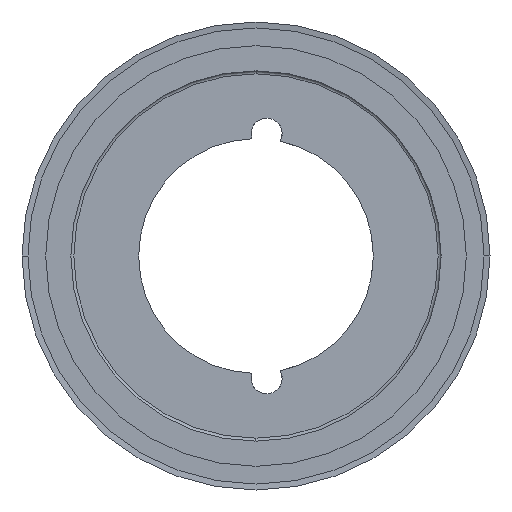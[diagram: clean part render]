
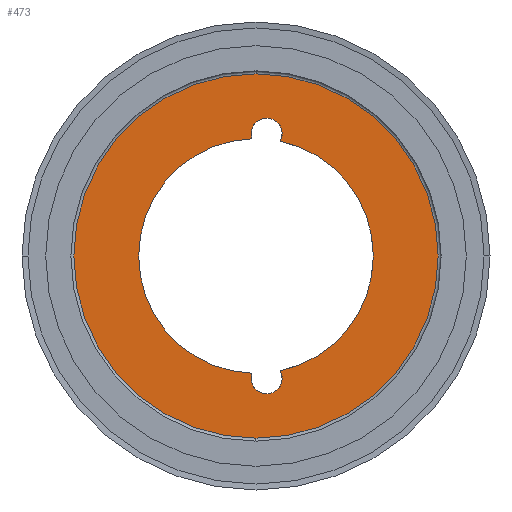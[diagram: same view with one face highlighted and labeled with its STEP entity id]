
A CAD part, left-side view. The second image highlights one B-rep face of the part: STEP entity #473.
In plain terms, the highlighted planar face has unit normal (-1, 0, 0).
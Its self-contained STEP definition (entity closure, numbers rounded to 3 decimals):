
#473 = ADVANCED_FACE( '', ( #1282, #1283 ), #1284, .T. );
#1282 = FACE_BOUND( '', #2102, .T. );
#1283 = FACE_OUTER_BOUND( '', #2103, .T. );
#1284 = PLANE( '', #2104 );
#2102 = EDGE_LOOP( '', ( #5639, #5640, #5641, #5642, #5643, #5644, #5645, #5646, #5647, #5648 ) );
#2103 = EDGE_LOOP( '', ( #5649, #5650, #5651 ) );
#2104 = AXIS2_PLACEMENT_3D( '', #5652, #5653, #5654 );
#5639 = ORIENTED_EDGE( '', *, *, #5790, .T. );
#5640 = ORIENTED_EDGE( '', *, *, #5793, .T. );
#5641 = ORIENTED_EDGE( '', *, *, #5792, .T. );
#5642 = ORIENTED_EDGE( '', *, *, #5785, .F. );
#5643 = ORIENTED_EDGE( '', *, *, #5797, .F. );
#5644 = ORIENTED_EDGE( '', *, *, #5801, .T. );
#5645 = ORIENTED_EDGE( '', *, *, #5777, .T. );
#5646 = ORIENTED_EDGE( '', *, *, #5772, .T. );
#5647 = ORIENTED_EDGE( '', *, *, #5798, .F. );
#5648 = ORIENTED_EDGE( '', *, *, #5783, .F. );
#5649 = ORIENTED_EDGE( '', *, *, #6893, .T. );
#5650 = ORIENTED_EDGE( '', *, *, #5735, .T. );
#5651 = ORIENTED_EDGE( '', *, *, #6894, .T. );
#5652 = CARTESIAN_POINT( '', ( 7.5, 50.552, 0. ) );
#5653 = DIRECTION( '', ( -1., 0., 0. ) );
#5654 = DIRECTION( '', ( 0., 1., 0. ) );
#5735 = EDGE_CURVE( '', #6935, #6941, #6943, .T. );
#5772 = EDGE_CURVE( '', #7004, #7007, #7009, .T. );
#5777 = EDGE_CURVE( '', #7011, #7004, #7018, .T. );
#5783 = EDGE_CURVE( '', #7027, #7019, #7029, .T. );
#5785 = EDGE_CURVE( '', #7030, #7033, #7034, .T. );
#5790 = EDGE_CURVE( '', #7027, #7040, #7042, .T. );
#5792 = EDGE_CURVE( '', #7043, #7033, #7045, .T. );
#5793 = EDGE_CURVE( '', #7040, #7043, #7046, .T. );
#5797 = EDGE_CURVE( '', #7049, #7030, #7051, .T. );
#5798 = EDGE_CURVE( '', #7019, #7007, #7052, .T. );
#5801 = EDGE_CURVE( '', #7049, #7011, #7055, .T. );
#6893 = EDGE_CURVE( '', #8867, #6935, #8868, .T. );
#6894 = EDGE_CURVE( '', #6941, #8867, #8869, .T. );
#6935 = VERTEX_POINT( '', #8917 );
#6941 = VERTEX_POINT( '', #8923 );
#6943 = CIRCLE( '', #8925, 61.5 );
#7004 = VERTEX_POINT( '', #9041 );
#7007 = VERTEX_POINT( '', #9045 );
#7009 = CIRCLE( '', #9056, 5.25 );
#7011 = VERTEX_POINT( '', #9058 );
#7018 = CIRCLE( '', #9084, 5.25 );
#7019 = VERTEX_POINT( '', #9085 );
#7027 = VERTEX_POINT( '', #9108 );
#7029 = CIRCLE( '', #9119, 39.603 );
#7030 = VERTEX_POINT( '', #9120 );
#7033 = VERTEX_POINT( '', #9124 );
#7034 = CIRCLE( '', #9125, 39.603 );
#7040 = VERTEX_POINT( '', #9149 );
#7042 = CIRCLE( '', #9152, 5.25 );
#7043 = VERTEX_POINT( '', #9153 );
#7045 = CIRCLE( '', #9156, 5.25 );
#7046 = CIRCLE( '', #9157, 5.25 );
#7049 = VERTEX_POINT( '', #9160 );
#7051 = CIRCLE( '', #9171, 39.603 );
#7052 = CIRCLE( '', #9172, 39.603 );
#7055 = CIRCLE( '', #9208, 5.25 );
#8867 = VERTEX_POINT( '', #11620 );
#8868 = CIRCLE( '', #11621, 61.5 );
#8869 = CIRCLE( '', #11622, 61.5 );
#8917 = CARTESIAN_POINT( '', ( 7.5, 0., -61.5 ) );
#8923 = CARTESIAN_POINT( '', ( 7.5, 0., 61.5 ) );
#8925 = AXIS2_PLACEMENT_3D( '', #11681, #11682, #11683 );
#9041 = CARTESIAN_POINT( '', ( 7.5, 1.653, -41.275 ) );
#9045 = CARTESIAN_POINT( '', ( 7.5, 1.371, -39.58 ) );
#9056 = AXIS2_PLACEMENT_3D( '', #11747, #11748, #11749 );
#9058 = CARTESIAN_POINT( '', ( 7.5, -8.847, -41.275 ) );
#9084 = AXIS2_PLACEMENT_3D( '', #11754, #11755, #11756 );
#9085 = CARTESIAN_POINT( '', ( 7.5, 39.603, 0. ) );
#9108 = CARTESIAN_POINT( '', ( 7.5, 1.371, 39.58 ) );
#9119 = AXIS2_PLACEMENT_3D( '', #11761, #11762, #11763 );
#9120 = CARTESIAN_POINT( '', ( 7.5, -39.603, 0. ) );
#9124 = CARTESIAN_POINT( '', ( 7.5, -8.198, 38.746 ) );
#9125 = AXIS2_PLACEMENT_3D( '', #11765, #11766, #11767 );
#9149 = CARTESIAN_POINT( '', ( 7.5, 1.653, 41.275 ) );
#9152 = AXIS2_PLACEMENT_3D( '', #11772, #11773, #11774 );
#9153 = CARTESIAN_POINT( '', ( 7.5, -8.847, 41.275 ) );
#9156 = AXIS2_PLACEMENT_3D( '', #11776, #11777, #11778 );
#9157 = AXIS2_PLACEMENT_3D( '', #11779, #11780, #11781 );
#9160 = CARTESIAN_POINT( '', ( 7.5, -8.198, -38.746 ) );
#9171 = AXIS2_PLACEMENT_3D( '', #11788, #11789, #11790 );
#9172 = AXIS2_PLACEMENT_3D( '', #11791, #11792, #11793 );
#9208 = AXIS2_PLACEMENT_3D( '', #11797, #11798, #11799 );
#11620 = CARTESIAN_POINT( '', ( 7.5, 61.5, 0. ) );
#11621 = AXIS2_PLACEMENT_3D( '', #13873, #13874, #13875 );
#11622 = AXIS2_PLACEMENT_3D( '', #13876, #13877, #13878 );
#11681 = CARTESIAN_POINT( '', ( 7.5, 0., 0. ) );
#11682 = DIRECTION( '', ( -1., 0., 0. ) );
#11683 = DIRECTION( '', ( 0., 1., 0. ) );
#11747 = CARTESIAN_POINT( '', ( 7.5, -3.597, -41.275 ) );
#11748 = DIRECTION( '', ( 1., 0., 0. ) );
#11749 = DIRECTION( '', ( 0., -1., 0. ) );
#11754 = CARTESIAN_POINT( '', ( 7.5, -3.597, -41.275 ) );
#11755 = DIRECTION( '', ( 1., 0., 0. ) );
#11756 = DIRECTION( '', ( 0., -1., 0. ) );
#11761 = CARTESIAN_POINT( '', ( 7.5, 0., 0. ) );
#11762 = DIRECTION( '', ( -1., 0., 0. ) );
#11763 = DIRECTION( '', ( 0., 1., 0. ) );
#11765 = CARTESIAN_POINT( '', ( 7.5, 0., 0. ) );
#11766 = DIRECTION( '', ( -1., 0., 0. ) );
#11767 = DIRECTION( '', ( 0., 1., 0. ) );
#11772 = CARTESIAN_POINT( '', ( 7.5, -3.597, 41.275 ) );
#11773 = DIRECTION( '', ( 1., 0., 0. ) );
#11774 = DIRECTION( '', ( 0., -1., 0. ) );
#11776 = CARTESIAN_POINT( '', ( 7.5, -3.597, 41.275 ) );
#11777 = DIRECTION( '', ( 1., 0., 0. ) );
#11778 = DIRECTION( '', ( 0., -1., 0. ) );
#11779 = CARTESIAN_POINT( '', ( 7.5, -3.597, 41.275 ) );
#11780 = DIRECTION( '', ( 1., 0., 0. ) );
#11781 = DIRECTION( '', ( 0., -1., 0. ) );
#11788 = CARTESIAN_POINT( '', ( 7.5, 0., 0. ) );
#11789 = DIRECTION( '', ( -1., 0., 0. ) );
#11790 = DIRECTION( '', ( 0., 1., 0. ) );
#11791 = CARTESIAN_POINT( '', ( 7.5, 0., 0. ) );
#11792 = DIRECTION( '', ( -1., 0., 0. ) );
#11793 = DIRECTION( '', ( 0., 1., 0. ) );
#11797 = CARTESIAN_POINT( '', ( 7.5, -3.597, -41.275 ) );
#11798 = DIRECTION( '', ( 1., 0., 0. ) );
#11799 = DIRECTION( '', ( 0., -1., 0. ) );
#13873 = CARTESIAN_POINT( '', ( 7.5, 0., 0. ) );
#13874 = DIRECTION( '', ( -1., 0., 0. ) );
#13875 = DIRECTION( '', ( 0., 1., 0. ) );
#13876 = CARTESIAN_POINT( '', ( 7.5, 0., 0. ) );
#13877 = DIRECTION( '', ( -1., 0., 0. ) );
#13878 = DIRECTION( '', ( 0., 1., 0. ) );
